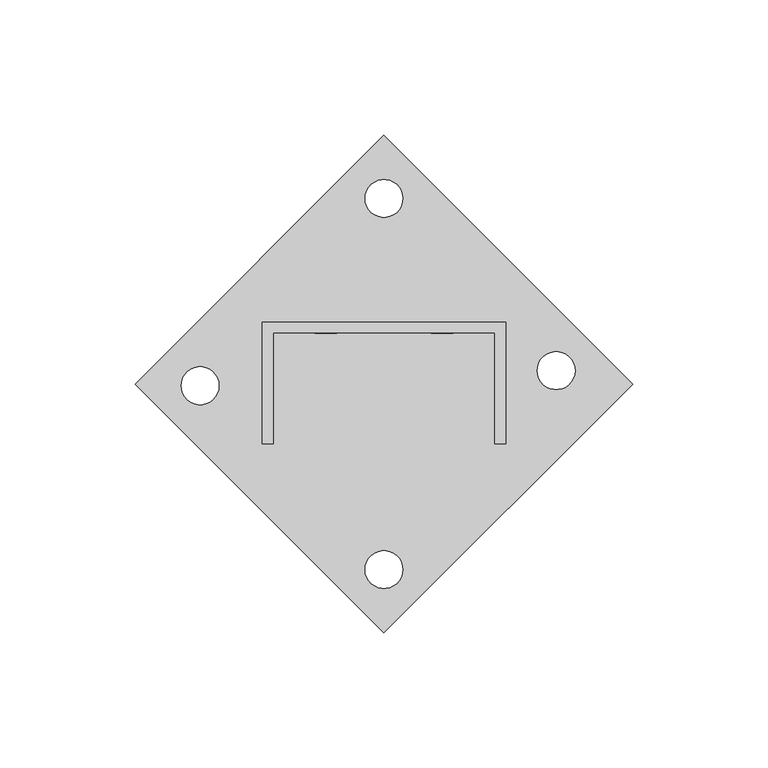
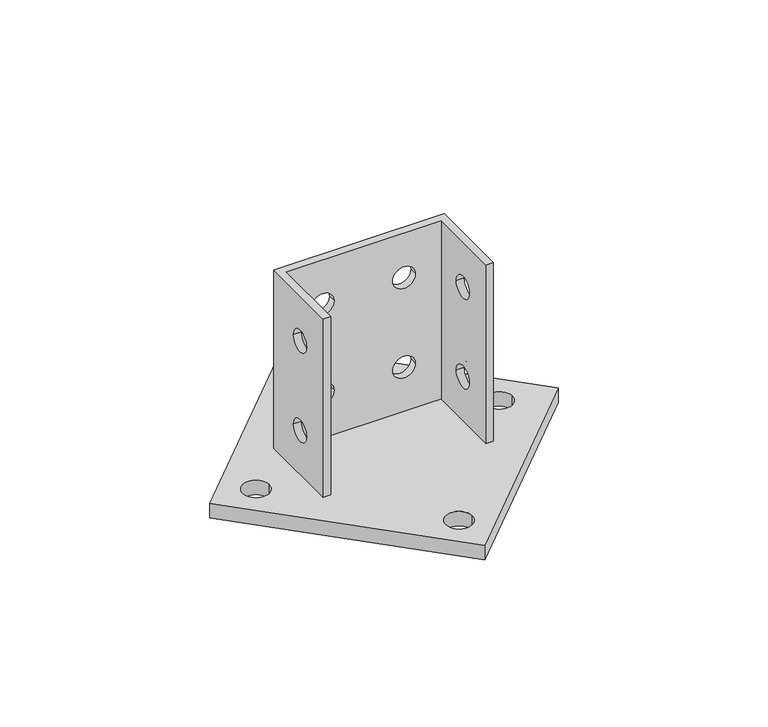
"""IFC4 building model written with IfcOpenShell, lengths in millimetres: proxy geometry, K82ME_Tape head-Basorfix : Basorfix K82ME GC70."""

import ifcopenshell
import ifcopenshell.guid

model = None  # the IFC model being written
_history = None  # IfcOwnerHistory: only IFC2X3 demands one
_inside = {}  # id of a spatial element -> (the spatial element, [elements in it])
_under = {}  # id of a project, library or spatial element -> (it, [spatial elements below it])
_declared = {}  # id of a project -> (the project, [libraries it declares])
_typed = {}  # id of a type object -> (the type object, [elements of that type])
_made_of = {}  # id of a material, layer set ... -> (it, [elements and type objects made of it])


def new_model(schema):
    """Start an empty IFC model of exactly this schema.

    Asked for "IFC4X3", IfcOpenShell would pick the latest addendum, in which some entities
    have other attributes; the version numbers below select the first issue.
    IFC2X3 requires an IfcOwnerHistory on every rooted entity: one is made here for all.
    """
    global model, _history
    if schema == "IFC4X3":
        model = ifcopenshell.file(schema_version=(4, 3, 0, 0))
    else:
        model = ifcopenshell.file(schema=schema)
    _inside.clear()
    _under.clear()
    _declared.clear()
    _typed.clear()
    _made_of.clear()
    _history = None
    if model.schema == "IFC2X3":
        org = make("IfcOrganization", Name="unknown")
        user = make(
            "IfcPersonAndOrganization",
            ThePerson=make("IfcPerson", FamilyName="unknown"),
            TheOrganization=org,
        )
        app = make(
            "IfcApplication",
            ApplicationDeveloper=org,
            Version="unknown",
            ApplicationFullName="unknown",
            ApplicationIdentifier="unknown",
        )
        _history = make(
            "IfcOwnerHistory",
            OwningUser=user,
            OwningApplication=app,
            ChangeAction="ADDED",
            CreationDate=0,
        )
    return model


def make(cls, **values):
    """One entity of the class cls with the attributes given. An attribute that is None is left unset."""
    return model.create_entity(
        cls, **{name: value for name, value in values.items() if value is not None}
    )


def rooted(cls, **values):
    """An entity with a GlobalId (a new one), such as an element, a storey or a relation."""
    return make(cls, GlobalId=ifcopenshell.guid.new(), OwnerHistory=_history, **values)


def si_unit(unit_type, name, prefix=None):
    """IfcSIUnit, for example si_unit("LENGTHUNIT", "METRE", prefix="MILLI")."""
    return make("IfcSIUnit", UnitType=unit_type, Prefix=prefix, Name=name)


def assignment(units):
    """IfcUnitAssignment: the units of a project."""
    return None if units is None else make("IfcUnitAssignment", Units=units)


def point(xyz):
    """IfcCartesianPoint."""
    return None if xyz is None else make("IfcCartesianPoint", Coordinates=xyz)


def direction(xyz):
    """IfcDirection."""
    return None if xyz is None else make("IfcDirection", DirectionRatios=xyz)


def frame(location, z_axis=None, x_axis=None):
    """IfcAxis2Placement3D, a coordinate frame: its origin and axes. An axis left out is left unset."""
    return make(
        "IfcAxis2Placement3D",
        Location=point(location),
        Axis=direction(z_axis),
        RefDirection=direction(x_axis),
    )


def frame_2d(location, x_axis=None):
    """IfcAxis2Placement2D, a coordinate frame in the plane: its origin and x axis."""
    return make(
        "IfcAxis2Placement2D", Location=point(location), RefDirection=direction(x_axis)
    )


def origin():
    """The frame at (0, 0, 0) with its axes left unset."""
    return frame((0.0, 0.0, 0.0))


def origin_with_axes():
    """The frame at (0, 0, 0) with the z axis (0, 0, 1) and the x axis (1, 0, 0) written out."""
    return frame((0.0, 0.0, 0.0), z_axis=(0.0, 0.0, 1.0), x_axis=(1.0, 0.0, 0.0))


def place(relative_to, where):
    """IfcLocalPlacement: puts the frame where relative to a parent placement (None: the world)."""
    return make(
        "IfcLocalPlacement", PlacementRelTo=relative_to, RelativePlacement=where
    )


def context(
    kind, dimensions, precision=None, world=None, true_north=None, identifier=None
):
    """IfcGeometricRepresentationContext, for example the 3D "Model" context."""
    return make(
        "IfcGeometricRepresentationContext",
        ContextIdentifier=identifier,
        ContextType=kind,
        CoordinateSpaceDimension=dimensions,
        Precision=precision,
        WorldCoordinateSystem=world,
        TrueNorth=true_north,
    )


def project(units=None, contexts=None):
    """IfcProject with its units and contexts."""
    return rooted(
        "IfcProject",
        Name="project",
        RepresentationContexts=contexts,
        UnitsInContext=assignment(units),
    )


def spatial(cls, under=None, at=None, **own):
    """A site, building, storey or space (cls), placed at a placement, below another one or the project."""
    s = rooted(cls, ObjectPlacement=at, **own)
    if under is not None:
        _under.setdefault(under.id(), (under, []))[1].append(s)
    return s


def polyline(points):
    """IfcPolyline through the points."""
    return make("IfcPolyline", Points=[point(p) for p in points])


def circle_curve(where, radius):
    """IfcCircle in the frame where."""
    return make("IfcCircle", Position=where, Radius=radius)


def trimmed(basis, trim1, trim2, sense, master):
    """IfcTrimmedCurve: the piece of a basis curve between two trims."""
    return make(
        "IfcTrimmedCurve",
        BasisCurve=basis,
        Trim1=trim1,
        Trim2=trim2,
        SenseAgreement=sense,
        MasterRepresentation=master,
    )


def segment(curve, same_sense, transition):
    """IfcCompositeCurveSegment."""
    return make(
        "IfcCompositeCurveSegment",
        Transition=transition,
        SameSense=same_sense,
        ParentCurve=curve,
    )


def composite_curve(segments, self_intersect=None):
    """IfcCompositeCurve: segments joined end to end."""
    return make("IfcCompositeCurve", Segments=segments, SelfIntersect=self_intersect)


def outline(outer, holes=None, kind="AREA"):
    """IfcArbitraryClosedProfileDef: a profile drawn as a closed curve; with holes, ...WithVoids."""
    if holes is None:
        return make("IfcArbitraryClosedProfileDef", ProfileType=kind, OuterCurve=outer)
    return make(
        "IfcArbitraryProfileDefWithVoids",
        ProfileType=kind,
        OuterCurve=outer,
        InnerCurves=holes,
    )


def extrude(swept, where, along, depth):
    """IfcExtrudedAreaSolid: the profile swept, set in the frame where, extruded along a direction by depth."""
    return make(
        "IfcExtrudedAreaSolid",
        SweptArea=swept,
        Position=where,
        ExtrudedDirection=direction(along),
        Depth=depth,
    )


def shape(context_of_items, identifier, shape_type, items):
    """IfcShapeRepresentation: the items that make up one representation, for example the "Body"."""
    return make(
        "IfcShapeRepresentation",
        ContextOfItems=context_of_items,
        RepresentationIdentifier=identifier,
        RepresentationType=shape_type,
        Items=items,
    )


def source(mapping_origin, context_of_items, identifier, shape_type, items):
    """IfcRepresentationMap: a shape defined once, which mapped items show again and again."""
    return make(
        "IfcRepresentationMap",
        MappingOrigin=mapping_origin,
        MappedRepresentation=shape(context_of_items, identifier, shape_type, items),
    )


def transform(
    local_origin,
    x_axis=None,
    y_axis=None,
    z_axis=None,
    scale=None,
    scale2=None,
    scale3=None,
    uniform=True,
):
    """IfcCartesianTransformationOperator3D, or its non-uniform kind. x_axis, y_axis, z_axis: its Axis1, 2, 3."""
    if uniform:
        return make(
            "IfcCartesianTransformationOperator3D",
            Axis1=direction(x_axis),
            Axis2=direction(y_axis),
            LocalOrigin=point(local_origin),
            Scale=scale,
            Axis3=direction(z_axis),
        )
    return make(
        "IfcCartesianTransformationOperator3DnonUniform",
        Axis1=direction(x_axis),
        Axis2=direction(y_axis),
        LocalOrigin=point(local_origin),
        Scale=scale,
        Axis3=direction(z_axis),
        Scale2=scale2,
        Scale3=scale3,
    )


def mapped(mapping_source, mapping_target):
    """IfcMappedItem: shows the shape of a source again, moved by a transform."""
    return make(
        "IfcMappedItem", MappingSource=mapping_source, MappingTarget=mapping_target
    )


def made_of(thing, what):
    """Note that an element or type object is made of a material, layer set ...; save() writes the relation."""
    if what is not None:
        _made_of.setdefault(what.id(), (what, []))[1].append(thing)
    return thing


def element(
    cls,
    number,
    at=None,
    inside=None,
    cuts=None,
    type_object=None,
    material=None,
    context=None,
    identifier="Body",
    shape_type=None,
    held_by="IfcProductDefinitionShape",
    body=None,
    shapes=None,
    **own,
):
    """One element of the class cls, such as IfcWall. Its Tag is "e" and its number.

    at: its placement. inside: the storey or other place that contains it. cuts: it is an
    opening in that element (IfcRelVoidsElement). A single representation is given by context,
    identifier, shape_type and body (its items); several are given by shapes. held_by: the class
    of the entity that holds the representations. save() writes the other relations.
    """
    e = rooted(cls, Tag="e%d" % number, ObjectPlacement=at, **own)
    if body is not None:
        shapes = [shape(context, identifier, shape_type, body)]
    if shapes is not None:
        e.Representation = make(held_by, Representations=shapes)
    if inside is not None:
        _inside.setdefault(inside.id(), (inside, []))[1].append(e)
    if cuts is not None:
        rooted(
            "IfcRelVoidsElement", RelatingBuildingElement=cuts, RelatedOpeningElement=e
        )
    if type_object is not None:
        _typed.setdefault(type_object.id(), (type_object, []))[1].append(e)
    return made_of(e, material)


def aggregate(whole, parts):
    """IfcRelAggregates: a whole, such as a stair, and the parts it consists of."""
    return rooted("IfcRelAggregates", RelatingObject=whole, RelatedObjects=parts)


def save(model, path):
    """Write the relations noted so far, then the file.

    IfcRelAggregates (storeys below a building ...), IfcRelContainedInSpatialStructure (elements
    in a storey), IfcRelDefinesByType, IfcRelAssociatesMaterial and IfcRelDeclares: one each for
    every whole, place, type object, material and project.
    """
    for whole, parts in _under.values():
        aggregate(whole, parts)
    for where, things in _inside.values():
        rooted(
            "IfcRelContainedInSpatialStructure",
            RelatedElements=things,
            RelatingStructure=where,
        )
    for kind, things in _typed.values():
        rooted("IfcRelDefinesByType", RelatedObjects=things, RelatingType=kind)
    for what, things in _made_of.values():
        rooted("IfcRelAssociatesMaterial", RelatedObjects=things, RelatingMaterial=what)
    for by, libraries in _declared.values():
        rooted("IfcRelDeclares", RelatingContext=by, RelatedDefinitions=libraries)
    model.write(path)


def plane_surface(at):
    """IfcPlane: the flat surface through the origin of the frame at, square to its z axis."""
    return make("IfcPlane", Position=at)


def revolved_surface(curve, axis_point, axis_direction):
    """IfcSurfaceOfRevolution: the curve turned about the line through axis_point along axis_direction."""
    return make(
        "IfcSurfaceOfRevolution",
        SweptCurve=make("IfcArbitraryOpenProfileDef", ProfileType="CURVE", Curve=curve),
        AxisPosition=make("IfcAxis1Placement", Location=point(axis_point), Axis=direction(axis_direction)),
    )


def advanced_brep(points, edges, surfaces, faces):
    """IfcAdvancedBrep: a solid bounded by faces that lie on surfaces and meet in shared edges.

    An edge is (start, end): straight between two places in points (the first is 0);
    or (start, end, curve); or (start, end, curve, False) where it runs against its curve.
    A face is (place in surfaces, loops), or (place, loops, False) where it looks against
    its surface's normal. A loop lists edges by number (the first is 1), with a minus sign
    where the edge is run from its end to its start. The first loop is the outer one.
    """
    corners = [point(p) for p in points]
    vertices = [make("IfcVertexPoint", VertexGeometry=c) for c in corners]
    made = []
    for start, end, *more in edges:
        made.append(
            make(
                "IfcEdgeCurve",
                EdgeStart=vertices[start],
                EdgeEnd=vertices[end],
                EdgeGeometry=more[0] if more else make("IfcPolyline", Points=[corners[start], corners[end]]),
                SameSense=more[1] if len(more) > 1 else True,
            )
        )
    hull = []
    for where, loops, *sense in faces:
        bounds = []
        for j, loop in enumerate(loops):
            ring = [make("IfcOrientedEdge", EdgeElement=made[abs(k) - 1], Orientation=k > 0) for k in loop]
            bounds.append(
                make(
                    "IfcFaceOuterBound" if j == 0 else "IfcFaceBound",
                    Bound=make("IfcEdgeLoop", EdgeList=ring),
                    Orientation=True,
                )
            )
        hull.append(make("IfcAdvancedFace", Bounds=bounds, FaceSurface=surfaces[where], SameSense=sense[0] if sense else True))
    return make("IfcAdvancedBrep", Outer=make("IfcClosedShell", CfsFaces=hull))


def generic_models_82820927(model_context):
    return source(origin(), model_context, "Body", "SolidModel", [
        extrude(outline(polyline([(91.9238816, -0.3548393), (0.0, -92.2787208), (-91.9238816, -0.3548393), (0.0, 91.5690423), (91.9238816, -0.3548393)]), holes=[composite_curve([segment(trimmed(circle_curve(frame_2d((0.0, 68.2345185)), 7.0), [point((-7.0, 68.2345185))], [point((7.0, 68.2345185))], True, "CARTESIAN"), True, "CONTINUOUS"), segment(trimmed(circle_curve(frame_2d((0.0, 68.2345185)), 7.0), [point((7.0, 68.2345185))], [point((-7.0, 68.2345185))], True, "CARTESIAN"), True, "CONTINUOUS")], self_intersect=False), composite_curve([segment(trimmed(circle_curve(frame_2d((63.6396103, 4.5949082)), 7.0), [point((56.6396103, 4.5949082))], [point((70.6396103, 4.5949082))], True, "CARTESIAN"), True, "CONTINUOUS"), segment(trimmed(circle_curve(frame_2d((63.6396103, 4.5949082)), 7.0), [point((70.6396103, 4.5949082))], [point((56.6396103, 4.5949082))], True, "CARTESIAN"), True, "CONTINUOUS")], self_intersect=False), composite_curve([segment(trimmed(circle_curve(frame_2d((0.0, -68.944197)), 7.0), [point((-7.0, -68.944197))], [point((7.0, -68.944197))], True, "CARTESIAN"), True, "CONTINUOUS"), segment(trimmed(circle_curve(frame_2d((0.0, -68.944197)), 7.0), [point((7.0, -68.944197))], [point((-7.0, -68.944197))], True, "CARTESIAN"), True, "CONTINUOUS")], self_intersect=False), composite_curve([segment(trimmed(circle_curve(frame_2d((-67.9818298, -0.9623673)), 7.0), [point((-74.9818298, -0.9623673))], [point((-60.9818298, -0.9623673))], True, "CARTESIAN"), True, "CONTINUOUS"), segment(trimmed(circle_curve(frame_2d((-67.9818298, -0.9623673)), 7.0), [point((-60.9818298, -0.9623673))], [point((-74.9818298, -0.9623673))], True, "CARTESIAN"), True, "CONTINUOUS")], self_intersect=False)]), origin_with_axes(), (0.0, 0.0, 1.0), 8.0),
        advanced_brep(
        [(-41.0, -22.5, 108.0), (-41.0, 18.5, 108.0), (41.0, 18.5, 108.0), (41.0, -22.5, 108.0), (45.0, -22.5, 108.0), (45.0, 22.5, 108.0), (-45.0, 22.5, 108.0), (-45.0, -22.5, 108.0), (-41.0, -22.5, 8.0), (-45.0, -22.5, 8.0), (-45.0, 22.5, 8.0), (45.0, 22.5, 8.0), (45.0, -22.5, 8.0), (41.0, -22.5, 8.0), (41.0, 18.5, 8.0), (-41.0, 18.5, 8.0), (-41.0, 4.5, 83.0), (-41.0, -7.5, 83.0), (-41.0, 4.5, 33.0), (-41.0, -7.5, 33.0), (-15.5, 18.5, 83.0), (-27.5, 18.5, 83.0), (27.5, 18.5, 83.0), (15.5, 18.5, 83.0), (-15.5, 18.5, 33.0), (-27.5, 18.5, 33.0), (27.5, 18.5, 33.0), (15.5, 18.5, 33.0), (41.0, -7.5, 83.0), (41.0, 4.5, 83.0), (41.0, -7.5, 33.0), (41.0, 4.5, 33.0), (45.0, 4.5, 83.0), (45.0, -7.5, 83.0), (45.0, 4.5, 33.0), (45.0, -7.5, 33.0), (-27.5, 22.5, 83.0), (-15.5, 22.5, 83.0), (15.5, 22.5, 83.0), (27.5, 22.5, 83.0), (-27.5, 22.5, 33.0), (-15.5, 22.5, 33.0), (15.5, 22.5, 33.0), (27.5, 22.5, 33.0), (-45.0, -7.5, 83.0), (-45.0, 4.5, 83.0), (-45.0, -7.5, 33.0), (-45.0, 4.5, 33.0)],
        [
            (0, 1),
            (1, 2),
            (2, 3),
            (3, 4),
            (4, 5),
            (5, 6),
            (6, 7),
            (7, 0),
            (8, 9),
            (9, 10),
            (10, 11),
            (11, 12),
            (12, 13),
            (13, 14),
            (14, 15),
            (15, 8),
            (0, 8),
            (15, 1),
            (16, 17, circle_curve(frame((-41.0, -1.5, 83.0), z_axis=(-1.0, 0.0, 0.0), x_axis=(0.0, 1.0, 0.0)), 6.0)),
            (17, 16, circle_curve(frame((-41.0, -1.5, 83.0), z_axis=(-1.0, 0.0, 0.0), x_axis=(0.0, 1.0, 0.0)), 6.0)),
            (18, 19, circle_curve(frame((-41.0, -1.5, 33.0), z_axis=(-1.0, 0.0, 0.0), x_axis=(0.0, 1.0, 0.0)), 6.0)),
            (19, 18, circle_curve(frame((-41.0, -1.5, 33.0), z_axis=(-1.0, 0.0, 0.0), x_axis=(0.0, 1.0, 0.0)), 6.0)),
            (14, 2),
            (20, 21, circle_curve(frame((-21.5, 18.5, 83.0), z_axis=(0.0, 1.0, 0.0), x_axis=(1.0, 0.0, 0.0)), 6.0)),
            (21, 20, circle_curve(frame((-21.5, 18.5, 83.0), z_axis=(0.0, 1.0, 0.0), x_axis=(1.0, 0.0, 0.0)), 6.0)),
            (22, 23, circle_curve(frame((21.5, 18.5, 83.0), z_axis=(0.0, 1.0, 0.0), x_axis=(1.0, 0.0, 0.0)), 6.0)),
            (23, 22, circle_curve(frame((21.5, 18.5, 83.0), z_axis=(0.0, 1.0, 0.0), x_axis=(1.0, 0.0, 0.0)), 6.0)),
            (24, 25, circle_curve(frame((-21.5, 18.5, 33.0), z_axis=(0.0, 1.0, 0.0), x_axis=(1.0, 0.0, 0.0)), 6.0)),
            (25, 24, circle_curve(frame((-21.5, 18.5, 33.0), z_axis=(0.0, 1.0, 0.0), x_axis=(1.0, 0.0, 0.0)), 6.0)),
            (26, 27, circle_curve(frame((21.5, 18.5, 33.0), z_axis=(0.0, 1.0, 0.0), x_axis=(1.0, 0.0, 0.0)), 6.0)),
            (27, 26, circle_curve(frame((21.5, 18.5, 33.0), z_axis=(0.0, 1.0, 0.0), x_axis=(1.0, 0.0, 0.0)), 6.0)),
            (13, 3),
            (28, 29, circle_curve(frame((41.0, -1.5, 83.0), z_axis=(1.0, 0.0, 0.0), x_axis=(0.0, 1.0, 0.0)), 6.0)),
            (29, 28, circle_curve(frame((41.0, -1.5, 83.0), z_axis=(1.0, 0.0, 0.0), x_axis=(0.0, 1.0, 0.0)), 6.0)),
            (30, 31, circle_curve(frame((41.0, -1.5, 33.0), z_axis=(1.0, 0.0, 0.0), x_axis=(0.0, 1.0, 0.0)), 6.0)),
            (31, 30, circle_curve(frame((41.0, -1.5, 33.0), z_axis=(1.0, 0.0, 0.0), x_axis=(0.0, 1.0, 0.0)), 6.0)),
            (12, 4),
            (11, 5),
            (32, 33, circle_curve(frame((45.0, -1.5, 83.0), z_axis=(-1.0, 0.0, 0.0), x_axis=(0.0, 1.0, 0.0)), 6.0)),
            (33, 32, circle_curve(frame((45.0, -1.5, 83.0), z_axis=(-1.0, 0.0, 0.0), x_axis=(0.0, 1.0, 0.0)), 6.0)),
            (34, 35, circle_curve(frame((45.0, -1.5, 33.0), z_axis=(-1.0, 0.0, 0.0), x_axis=(0.0, 1.0, 0.0)), 6.0)),
            (35, 34, circle_curve(frame((45.0, -1.5, 33.0), z_axis=(-1.0, 0.0, 0.0), x_axis=(0.0, 1.0, 0.0)), 6.0)),
            (10, 6),
            (36, 37, circle_curve(frame((-21.5, 22.5, 83.0), z_axis=(0.0, -1.0, 0.0), x_axis=(1.0, 0.0, 0.0)), 6.0)),
            (37, 36, circle_curve(frame((-21.5, 22.5, 83.0), z_axis=(0.0, -1.0, 0.0), x_axis=(1.0, 0.0, 0.0)), 6.0)),
            (38, 39, circle_curve(frame((21.5, 22.5, 83.0), z_axis=(0.0, -1.0, 0.0), x_axis=(1.0, 0.0, 0.0)), 6.0)),
            (39, 38, circle_curve(frame((21.5, 22.5, 83.0), z_axis=(0.0, -1.0, 0.0), x_axis=(1.0, 0.0, 0.0)), 6.0)),
            (40, 41, circle_curve(frame((-21.5, 22.5, 33.0), z_axis=(0.0, -1.0, 0.0), x_axis=(1.0, 0.0, 0.0)), 6.0)),
            (41, 40, circle_curve(frame((-21.5, 22.5, 33.0), z_axis=(0.0, -1.0, 0.0), x_axis=(1.0, 0.0, 0.0)), 6.0)),
            (42, 43, circle_curve(frame((21.5, 22.5, 33.0), z_axis=(0.0, -1.0, 0.0), x_axis=(1.0, 0.0, 0.0)), 6.0)),
            (43, 42, circle_curve(frame((21.5, 22.5, 33.0), z_axis=(0.0, -1.0, 0.0), x_axis=(1.0, 0.0, 0.0)), 6.0)),
            (9, 7),
            (44, 45, circle_curve(frame((-45.0, -1.5, 83.0), z_axis=(1.0, 0.0, 0.0), x_axis=(0.0, 1.0, 0.0)), 6.0)),
            (45, 44, circle_curve(frame((-45.0, -1.5, 83.0), z_axis=(1.0, 0.0, 0.0), x_axis=(0.0, 1.0, 0.0)), 6.0)),
            (46, 47, circle_curve(frame((-45.0, -1.5, 33.0), z_axis=(1.0, 0.0, 0.0), x_axis=(0.0, 1.0, 0.0)), 6.0)),
            (47, 46, circle_curve(frame((-45.0, -1.5, 33.0), z_axis=(1.0, 0.0, 0.0), x_axis=(0.0, 1.0, 0.0)), 6.0)),
            (44, 17),
            (16, 45),
            (28, 33),
            (32, 29),
            (46, 19),
            (18, 47),
            (30, 35),
            (34, 31),
            (36, 21),
            (20, 37),
            (38, 23),
            (22, 39),
            (40, 25),
            (24, 41),
            (42, 27),
            (26, 43),
        ],
        [
            plane_surface(frame((-41.0, -22.5, 108.0), z_axis=(0.0, 0.0, 1.0), x_axis=(0.0, 1.0, 0.0))),
            plane_surface(frame((-41.0, -22.5, 8.0), z_axis=(0.0, 0.0, -1.0), x_axis=(0.0, -1.0, 0.0))),
            plane_surface(frame((-41.0, -22.5, 108.0), z_axis=(1.0, 0.0, 0.0), x_axis=(0.0, 0.0, -1.0))),
            plane_surface(frame((-41.0, 18.5, 108.0), z_axis=(0.0, -1.0, 0.0), x_axis=(0.0, 0.0, -1.0))),
            plane_surface(frame((41.0, 18.5, 108.0), z_axis=(-1.0, 0.0, 0.0), x_axis=(0.0, 0.0, -1.0))),
            plane_surface(frame((41.0, -22.5, 108.0), z_axis=(0.0, -1.0, 0.0), x_axis=(0.0, 0.0, -1.0))),
            plane_surface(frame((45.0, -22.5, 108.0), z_axis=(1.0, 0.0, 0.0), x_axis=(0.0, 0.0, -1.0))),
            plane_surface(frame((45.0, 22.5, 108.0), z_axis=(0.0, 1.0, 0.0), x_axis=(0.0, 0.0, -1.0))),
            plane_surface(frame((-45.0, 22.5, 108.0), z_axis=(-1.0, 0.0, 0.0), x_axis=(0.0, 0.0, -1.0))),
            plane_surface(frame((-45.0, -22.5, 108.0), z_axis=(0.0, -1.0, 0.0), x_axis=(0.0, 0.0, -1.0))),
            revolved_surface(polyline([(-41.0, 4.5, 83.0), (-45.0, 4.5, 83.0)]), (-45.0, -1.5, 83.0), (1.0, 0.0, 0.0)),
            revolved_surface(polyline([(45.0, 4.5, 83.0), (41.0, 4.5, 83.0)]), (-45.0, -1.5, 83.0), (1.0, 0.0, 0.0)),
            revolved_surface(polyline([(-41.0, 4.5, 33.0), (-45.0, 4.5, 33.0)]), (0.0, -1.5, 33.0), (1.0, 0.0, 0.0)),
            revolved_surface(polyline([(45.0, 4.5, 33.0), (41.0, 4.5, 33.0)]), (0.0, -1.5, 33.0), (1.0, 0.0, 0.0)),
            revolved_surface(polyline([(-15.5, 18.5, 83.0), (-15.5, 22.5, 83.0)]), (-21.5, 25.5, 83.0), (0.0, -1.0, 0.0)),
            revolved_surface(polyline([(27.5, 18.5, 83.0), (27.5, 22.5, 83.0)]), (21.5, 0.0, 83.0), (0.0, -1.0, 0.0)),
            revolved_surface(polyline([(-15.5, 18.5, 33.0), (-15.5, 22.5, 33.0)]), (-21.5, 0.0, 33.0), (0.0, -1.0, 0.0)),
            revolved_surface(polyline([(27.5, 18.5, 33.0), (27.5, 22.5, 33.0)]), (21.5, 0.0, 33.0), (0.0, -1.0, 0.0)),
        ],
        [
            (0, [[1, 2, 3, 4, 5, 6, 7, 8]]),
            (1, [[9, 10, 11, 12, 13, 14, 15, 16]]),
            (2, [[-1, 17, -16, 18], [19, 20], [21, 22]]),
            (3, [[-2, -18, -15, 23], [24, 25], [26, 27], [28, 29], [30, 31]]),
            (4, [[-3, -23, -14, 32], [33, 34], [35, 36]]),
            (5, [[-4, -32, -13, 37]]),
            (6, [[-5, -37, -12, 38], [39, 40], [41, 42]]),
            (7, [[-6, -38, -11, 43], [44, 45], [46, 47], [48, 49], [50, 51]]),
            (8, [[-7, -43, -10, 52], [53, 54], [55, 56]]),
            (9, [[-8, -52, -9, -17]]),
            (10, [[57, -19, 58, -53]]),
            (11, [[59, -39, 60, -33]]),
            (10, [[-57, -54, -58, -20]]),
            (11, [[-59, -34, -60, -40]]),
            (12, [[61, -21, 62, -55]]),
            (13, [[63, -41, 64, -35]]),
            (12, [[-61, -56, -62, -22]]),
            (13, [[-63, -36, -64, -42]]),
            (14, [[65, -24, 66, -44]]),
            (14, [[-65, -45, -66, -25]]),
            (15, [[67, -26, 68, -46]]),
            (15, [[-67, -47, -68, -27]]),
            (16, [[69, -28, 70, -48]]),
            (16, [[-69, -49, -70, -29]]),
            (17, [[71, -30, 72, -50]]),
            (17, [[-71, -51, -72, -31]]),
        ],
    ),
    ])


if __name__ == "__main__":
    model = new_model("IFC4")
    model_context = context("Model", 3, world=origin())
    ifc_project = project(units=[si_unit("LENGTHUNIT", "METRE", prefix="MILLI")], contexts=[model_context])
    site = spatial("IfcSite", under=ifc_project)
    building = spatial("IfcBuilding", under=site)
    placement = place(None, origin())
    generic_models_shape = generic_models_82820927(model_context)
    element("IfcBuildingElementProxy", 1, Name="K82ME_Tape head-Basorfix : Basorfix K82ME GC70", ObjectType="K82ME_Tape head-Basorfix : Basorfix K82ME GC70", at=placement, inside=building, context=model_context, shape_type="MappedRepresentation", body=[
        mapped(generic_models_shape, transform((0.0, 0.0, 0.0), x_axis=(1.0, 0.0, 0.0), y_axis=(0.0, 1.0, 0.0), z_axis=(0.0, 0.0, 1.0))),
    ])
    save(model, "model.ifc")
